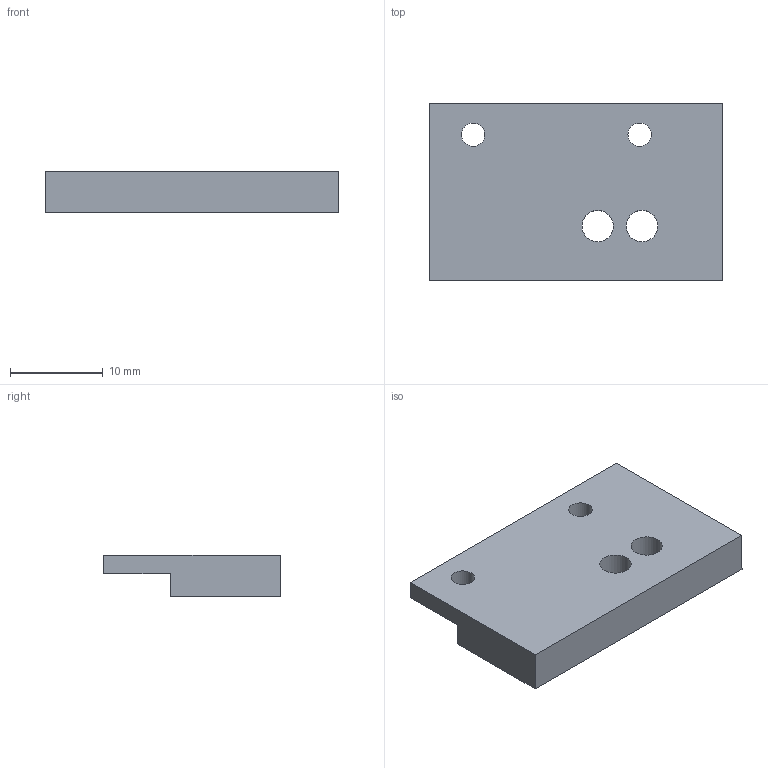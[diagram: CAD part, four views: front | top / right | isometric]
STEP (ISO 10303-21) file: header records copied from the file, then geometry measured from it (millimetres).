
FILE_DESCRIPTION(/* description */ (''),/* implementation_level */ '2;1');
FILE_NAME(/* name */ 'C:/Users/KB/Desktop/Print_ZSwitchMount_Honeywell411SX21-T_RemoteToolLock v8.step',/* time_stamp */ '2021-03-06T18:53:50-05:00',/* author */ (''),/* organization */ (''),/* preprocessor_version */ 'ST-DEVELOPER v18.1',/* originating_system */ 'Autodesk Translation Framework v9.10.0.1330',/* authorisation */ '');
FILE_SCHEMA (('AUTOMOTIVE_DESIGN { 1 0 10303 214 3 1 1 }'));
Length unit declared in the file: millimetre
Products named in the file (1): Print_ZSwitchMount_Honeywell411SX21-T_RemoteToolLock
Bounding box: 31.61 x 19.12 x 4.5 mm (x, y, z)
Volume: 2047.4 mm3; surface area: 1700.6 mm2
Topology: 1 solids, 1 shells, 12 faces, 30 edges, 20 vertices
Faces by surface type: plane 8, cylinder 4
Full cylindrical faces by diameter (mm): 2.529 x2, 3.4 x2
Entity records: 411 total; most frequent: DIRECTION 64, CARTESIAN_POINT 63, ORIENTED_EDGE 60, EDGE_CURVE 30, LINE 22, VECTOR 22, AXIS2_PLACEMENT_3D 21, EDGE_LOOP 20
